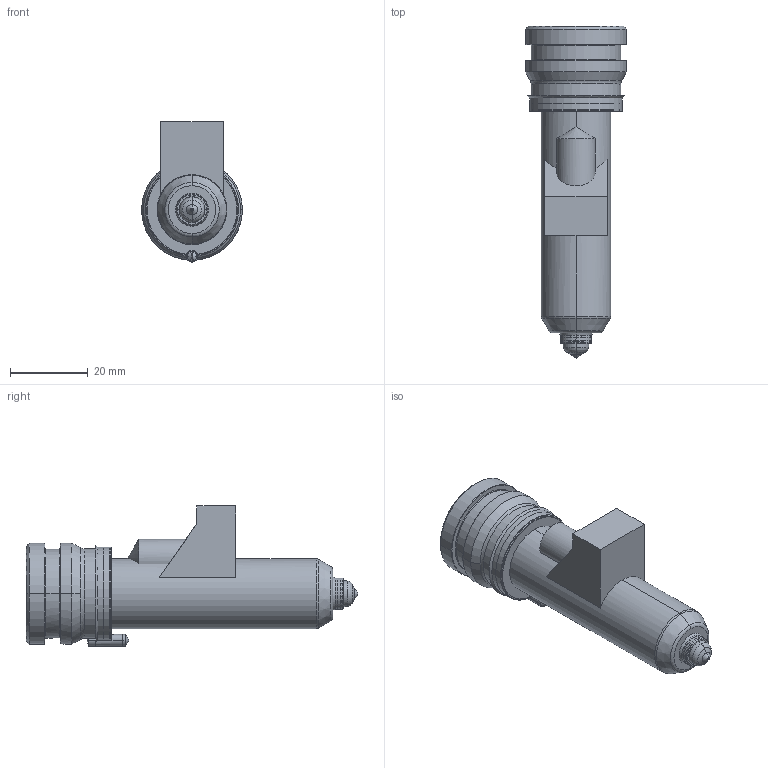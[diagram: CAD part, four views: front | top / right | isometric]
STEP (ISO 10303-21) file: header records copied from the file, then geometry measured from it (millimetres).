
FILE_DESCRIPTION((''),'2;1');
FILE_NAME('TH18067_5-M-1B15-PK-JG','2023-12-14T',('umhib'),('Thermoplay S.p.A.'),'PRO/ENGINEER BY PARAMETRIC TECHNOLOGY CORPORATION, 2017170','PRO/ENGINEER BY PARAMETRIC TECHNOLOGY CORPORATION, 2017170','');
FILE_SCHEMA(('CONFIG_CONTROL_DESIGN'));
Length unit declared in the file: millimetre
Products named in the file (1): TH18067_5-M-1B15-PK-JG
Bounding box: 26 x 85.5 x 36.1 mm (x, y, z)
Volume: 18869.3 mm3; surface area: 14745.6 mm2
Topology: 1 solids, 2 shells, 393 faces, 1003 edges, 615 vertices
Faces by surface type: cylinder 149, plane 87, cone 64, torus 58, bspline 22, sphere 11, extrusion 2
Entity records: 16881 total; most frequent: CARTESIAN_POINT 5198, DIRECTION 2010, ORIENTED_EDGE 1980, EDGE_CURVE 992, AXIS2_PLACEMENT_3D 810, VERTEX_POINT 615, CIRCLE 440, EDGE_LOOP 416
